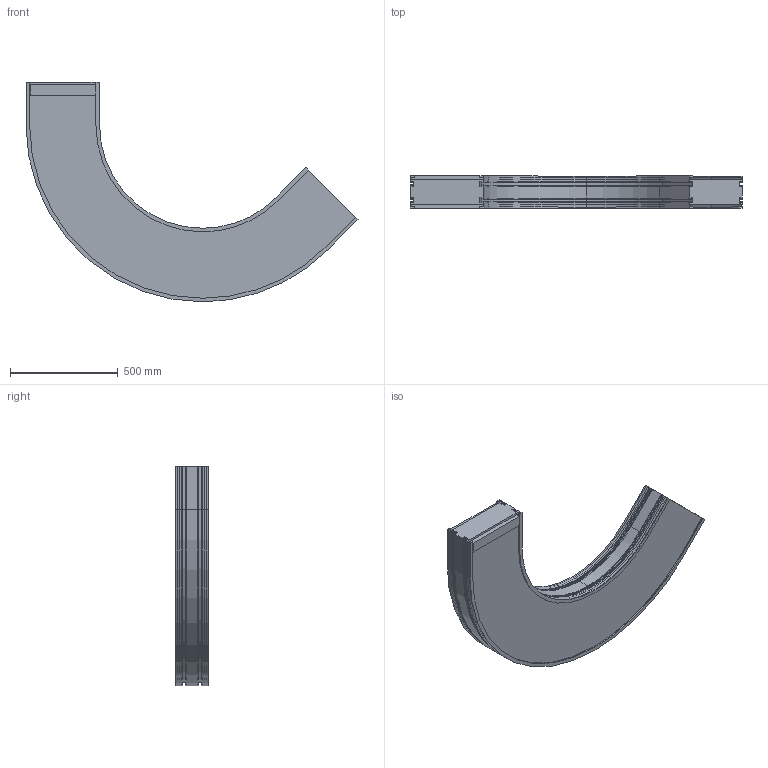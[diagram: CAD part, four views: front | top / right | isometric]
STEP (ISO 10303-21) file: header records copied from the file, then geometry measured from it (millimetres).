
FILE_DESCRIPTION (( 'STEP AP203' ), '1' );
FILE_NAME ('F2-1200-C135.STEP', '2009-01-23T07:49:43', ( 'faber' ), ( '' ), 'SwSTEP 2.0', 'SolidWorks 2008', '' );
FILE_SCHEMA (( 'CONFIG_CONTROL_DESIGN' ));
Length unit declared in the file: millimetre
Products named in the file (3): F2-1200-C135; Courbe_1200; Tapis_1200
Assembly tree (3 placements, depth 2):
  F2-1200-C135
    Courbe_1200
    Tapis_1200  x2
Bounding box: 1542.96 x 152.88 x 1021 mm (x, y, z)
Volume: 74957302.8 mm3; surface area: 3071219.2 mm2
Topology: 3 solids, 3 shells, 232 faces, 678 edges, 452 vertices
Faces by surface type: plane 148, cylinder 84
Entity records: 7743 total; most frequent: CARTESIAN_POINT 1318, ORIENTED_EDGE 1308, DIRECTION 1278, EDGE_CURVE 654, LINE 486, VECTOR 486, VERTEX_POINT 436, AXIS2_PLACEMENT_3D 396
